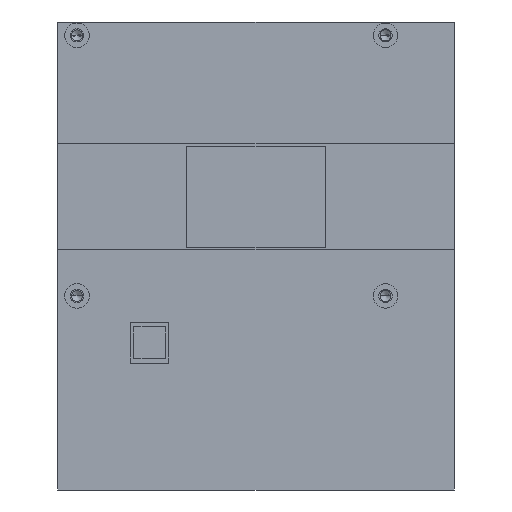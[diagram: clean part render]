
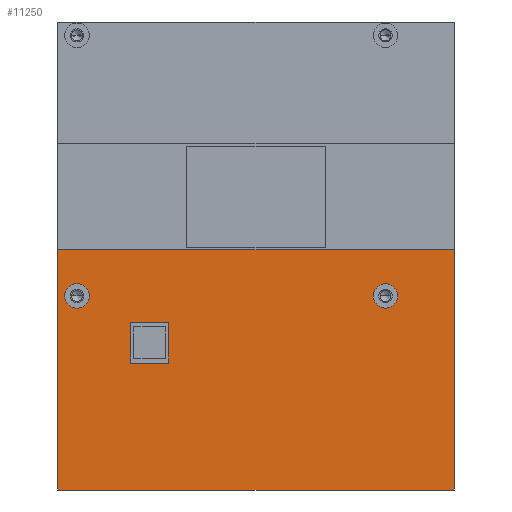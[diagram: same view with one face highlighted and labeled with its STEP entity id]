
A CAD part, front view. The second image highlights one B-rep face of the part: STEP entity #11250.
In plain terms, the highlighted planar face has unit normal (0, -1, 0).
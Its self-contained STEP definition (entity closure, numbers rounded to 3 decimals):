
#113=CARTESIAN_POINT('',(24.5,0.,-7.5));
#114=DIRECTION('',(0.,-1.,0.));
#115=DIRECTION('',(-1.,0.,0.));
#116=AXIS2_PLACEMENT_3D('',#113,#114,#115);
#118=CARTESIAN_POINT('',(24.5,0.,-7.5));
#119=DIRECTION('',(0.,-1.,0.));
#120=DIRECTION('',(1.,0.,0.));
#121=AXIS2_PLACEMENT_3D('',#118,#119,#120);
#123=CARTESIAN_POINT('',(-33.5,0.,-7.5));
#124=DIRECTION('',(0.,-1.,0.));
#125=DIRECTION('',(-1.,0.,0.));
#126=AXIS2_PLACEMENT_3D('',#123,#124,#125);
#128=CARTESIAN_POINT('',(-33.5,0.,-7.5));
#129=DIRECTION('',(0.,-1.,0.));
#130=DIRECTION('',(1.,0.,0.));
#131=AXIS2_PLACEMENT_3D('',#128,#129,#130);
#153=DIRECTION('',(-1.,0.,0.));
#154=VECTOR('',#153,7.15);
#155=CARTESIAN_POINT('',(-16.255,0.,-12.5));
#156=LINE('',#155,#154);
#157=DIRECTION('',(1.,0.,0.));
#158=VECTOR('',#157,7.15);
#159=CARTESIAN_POINT('',(-23.405,0.,-20.135));
#160=LINE('',#159,#158);
#173=DIRECTION('',(0.,0.,-1.));
#174=VECTOR('',#173,45.18);
#175=CARTESIAN_POINT('',(37.4,0.,1.18));
#176=LINE('',#175,#174);
#177=DIRECTION('',(1.,0.,0.));
#178=VECTOR('',#177,74.5);
#179=CARTESIAN_POINT('',(-37.1,0.,-44.));
#180=LINE('',#179,#178);
#181=DIRECTION('',(0.,0.,1.));
#182=VECTOR('',#181,45.18);
#183=CARTESIAN_POINT('',(-37.1,0.,-44.));
#184=LINE('',#183,#182);
#401=DIRECTION('',(0.,0.,-1.));
#402=VECTOR('',#401,7.635);
#403=CARTESIAN_POINT('',(-16.255,0.,-12.5));
#404=LINE('',#403,#402);
#441=DIRECTION('',(0.,0.,1.));
#442=VECTOR('',#441,7.635);
#443=CARTESIAN_POINT('',(-23.405,0.,-20.135));
#444=LINE('',#443,#442);
#529=DIRECTION('',(-1.,0.,0.));
#530=VECTOR('',#529,74.5);
#531=CARTESIAN_POINT('',(37.4,0.,1.18));
#532=LINE('',#531,#530);
#8221=CARTESIAN_POINT('',(-31.2,0.,-7.5));
#8222=CARTESIAN_POINT('',(-35.8,0.,-7.5));
#8223=VERTEX_POINT('',#8221);
#8224=VERTEX_POINT('',#8222);
#8227=CARTESIAN_POINT('',(22.2,0.,-7.5));
#8228=VERTEX_POINT('',#8227);
#8261=CARTESIAN_POINT('',(26.8,0.,-7.501));
#8262=VERTEX_POINT('',#8261);
#9569=CARTESIAN_POINT('',(-23.405,0.,-20.135));
#9570=VERTEX_POINT('',#9569);
#9571=CARTESIAN_POINT('',(-16.255,0.,-20.135));
#9572=VERTEX_POINT('',#9571);
#9577=CARTESIAN_POINT('',(-16.255,0.,-12.5));
#9578=VERTEX_POINT('',#9577);
#9579=CARTESIAN_POINT('',(-23.405,0.,-12.5));
#9580=VERTEX_POINT('',#9579);
#9581=CARTESIAN_POINT('',(-37.1,0.,-44.));
#9582=CARTESIAN_POINT('',(37.4,0.,-44.));
#9583=VERTEX_POINT('',#9581);
#9584=VERTEX_POINT('',#9582);
#10883=CARTESIAN_POINT('',(37.4,0.,1.18));
#10884=VERTEX_POINT('',#10883);
#10885=CARTESIAN_POINT('',(-37.1,0.,1.18));
#10886=VERTEX_POINT('',#10885);
#11214=CARTESIAN_POINT('',(-26.8,0.,55.));
#11215=DIRECTION('',(0.,1.,0.));
#11216=DIRECTION('',(-1.,0.,0.));
#11217=AXIS2_PLACEMENT_3D('',#11214,#11215,#11216);
#11218=PLANE('',#11217);
#11220=ORIENTED_EDGE('',*,*,#11219,.F.);
#11221=ORIENTED_EDGE('',*,*,#10990,.T.);
#11223=ORIENTED_EDGE('',*,*,#11222,.F.);
#11225=ORIENTED_EDGE('',*,*,#11224,.T.);
#11226=EDGE_LOOP('',(#11220,#11221,#11223,#11225));
#11227=FACE_OUTER_BOUND('',#11226,.F.);
#11229=ORIENTED_EDGE('',*,*,#11228,.T.);
#11231=ORIENTED_EDGE('',*,*,#11230,.T.);
#11232=EDGE_LOOP('',(#11229,#11231));
#11233=FACE_BOUND('',#11232,.F.);
#11235=ORIENTED_EDGE('',*,*,#11234,.T.);
#11237=ORIENTED_EDGE('',*,*,#11236,.T.);
#11238=EDGE_LOOP('',(#11235,#11237));
#11239=FACE_BOUND('',#11238,.F.);
#11241=ORIENTED_EDGE('',*,*,#11240,.F.);
#11243=ORIENTED_EDGE('',*,*,#11242,.T.);
#11245=ORIENTED_EDGE('',*,*,#11244,.F.);
#11247=ORIENTED_EDGE('',*,*,#11246,.T.);
#11248=EDGE_LOOP('',(#11241,#11243,#11245,#11247));
#11249=FACE_BOUND('',#11248,.F.);
#11250=ADVANCED_FACE('',(#11227,#11233,#11239,#11249),#11218,.F.);
#117=CIRCLE('',#116,2.3);
#122=CIRCLE('',#121,2.3);
#127=CIRCLE('',#126,2.3);
#132=CIRCLE('',#131,2.3);
#10990=EDGE_CURVE('',#10884,#9584,#176,.T.);
#11219=EDGE_CURVE('',#10884,#10886,#532,.T.);
#11222=EDGE_CURVE('',#9583,#9584,#180,.T.);
#11224=EDGE_CURVE('',#9583,#10886,#184,.T.);
#11228=EDGE_CURVE('',#8228,#8262,#117,.T.);
#11230=EDGE_CURVE('',#8262,#8228,#122,.T.);
#11234=EDGE_CURVE('',#8224,#8223,#127,.T.);
#11236=EDGE_CURVE('',#8223,#8224,#132,.T.);
#11240=EDGE_CURVE('',#9578,#9572,#404,.T.);
#11242=EDGE_CURVE('',#9578,#9580,#156,.T.);
#11244=EDGE_CURVE('',#9570,#9580,#444,.T.);
#11246=EDGE_CURVE('',#9570,#9572,#160,.T.);
